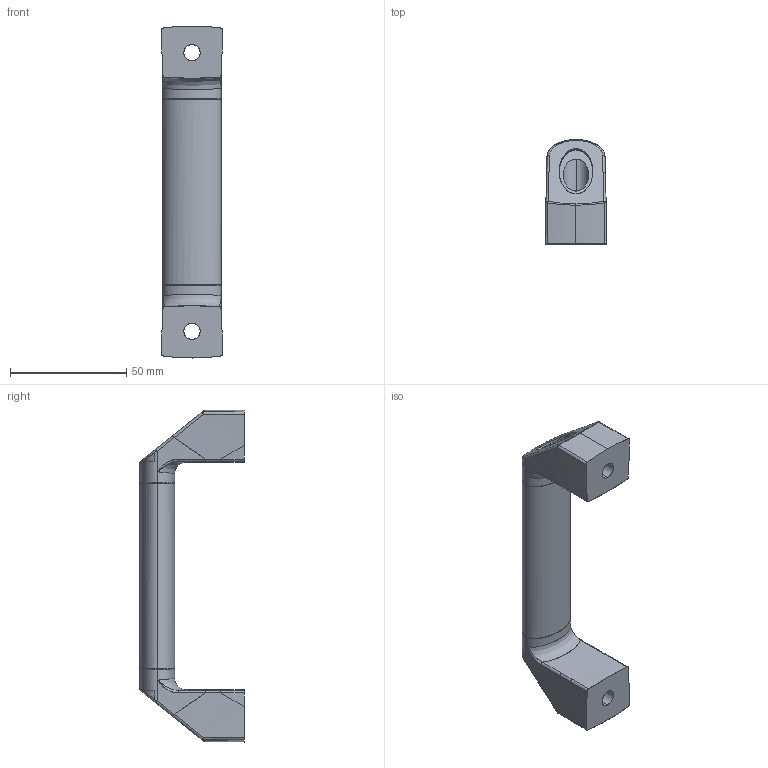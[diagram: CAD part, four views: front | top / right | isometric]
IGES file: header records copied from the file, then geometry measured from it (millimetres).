
Start section: SolidWorks IGES file using analytic representation for surfaces
Global section: file name: D:\由鑫國際內部資料\內部資料\3D圖檔\MS-737-1-D\MS-737-1-D\P=120.IGS,15HSolidWorks; native system: 2008; preprocessor: SolidWorks 2008; author: Administrator; date: 091027.155206; units: millimetre
Bounding box: 26.56 x 45 x 143 mm (x, y, z)
Surface area: 21834.5 mm2 (no closed solid volume)
Topology: 0 solids, 0 shells, 125 faces, 1972 edges, 1968 vertices
Faces by surface type: bspline 82, revolution 43
